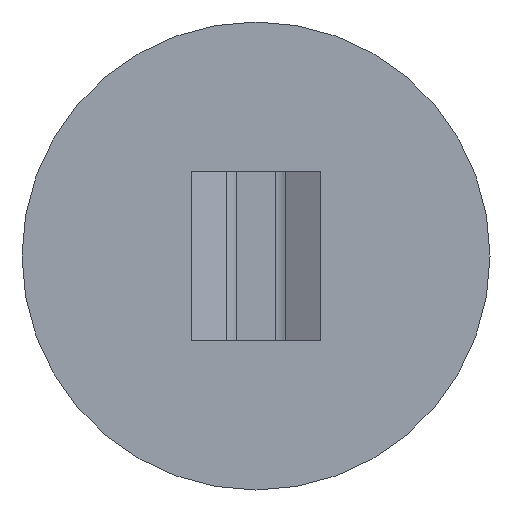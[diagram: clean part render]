
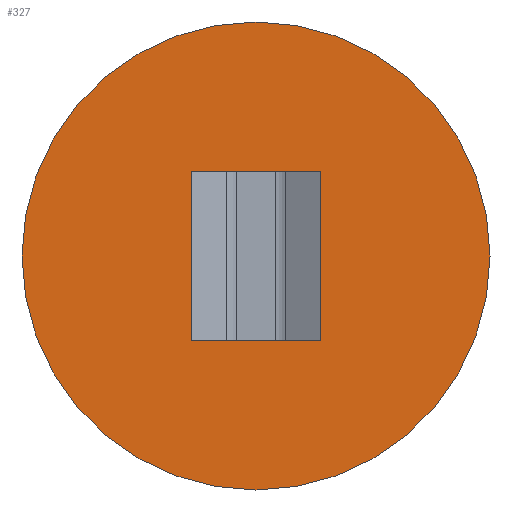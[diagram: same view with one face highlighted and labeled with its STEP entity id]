
A CAD part, front view. The second image highlights one B-rep face of the part: STEP entity #327.
In plain terms, the highlighted planar face has unit normal (0, -1, 0).
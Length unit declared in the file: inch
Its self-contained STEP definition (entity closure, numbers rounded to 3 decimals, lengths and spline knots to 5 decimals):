
#21 = ORIENTED_EDGE ( 'NONE', *, *, #678, .T. ) ;
#23 = VERTEX_POINT ( 'NONE', #656 ) ;
#28 = FACE_BOUND ( 'NONE', #105, .T. ) ;
#55 = CARTESIAN_POINT ( 'NONE',  ( 0.17328, -0.03, 0. ) ) ;
#61 = CARTESIAN_POINT ( 'NONE',  ( -0.17328, -0.03, 0. ) ) ;
#86 = DIRECTION ( 'NONE',  ( 1., 0., 0. ) ) ;
#95 = EDGE_CURVE ( 'NONE', #163, #555, #108, .T. ) ;
#105 = EDGE_LOOP ( 'NONE', ( #258, #493, #324, #719 ) ) ;
#108 = CIRCLE ( 'NONE', #189, 0.625 ) ;
#136 = CARTESIAN_POINT ( 'NONE',  ( -0.17328, -0.03, 0.454 ) ) ;
#163 = VERTEX_POINT ( 'NONE', #542 ) ;
#189 = AXIS2_PLACEMENT_3D ( 'NONE', #334, #572, #210 ) ;
#194 = CARTESIAN_POINT ( 'NONE',  ( 0., -0.03, 0.227 ) ) ;
#195 = EDGE_CURVE ( 'NONE', #348, #662, #632, .T. ) ;
#201 = DIRECTION ( 'NONE',  ( 0., -1., 0. ) ) ;
#203 = DIRECTION ( 'NONE',  ( 0., 1., 0. ) ) ;
#210 = DIRECTION ( 'NONE',  ( 1., 0., 0. ) ) ;
#251 = AXIS2_PLACEMENT_3D ( 'NONE', #487, #203, #302 ) ;
#258 = ORIENTED_EDGE ( 'NONE', *, *, #356, .F. ) ;
#262 = PLANE ( 'NONE',  #251 ) ;
#271 = CARTESIAN_POINT ( 'NONE',  ( 0.17328, -0.03, 0. ) ) ;
#285 = CARTESIAN_POINT ( 'NONE',  ( 0.625, -0.03, 0.227 ) ) ;
#294 = LINE ( 'NONE', #61, #668 ) ;
#302 = DIRECTION ( 'NONE',  ( -1., 0., 0. ) ) ;
#319 = VERTEX_POINT ( 'NONE', #471 ) ;
#324 = ORIENTED_EDGE ( 'NONE', *, *, #659, .T. ) ;
#327 = ADVANCED_FACE ( 'NONE', ( #590, #28 ), #262, .F. ) ;
#334 = CARTESIAN_POINT ( 'NONE',  ( 0., -0.03, 0.227 ) ) ;
#336 = DIRECTION ( 'NONE',  ( 1., 0., 0. ) ) ;
#348 = VERTEX_POINT ( 'NONE', #55 ) ;
#356 = EDGE_CURVE ( 'NONE', #319, #348, #387, .T. ) ;
#384 = DIRECTION ( 'NONE',  ( 0., 0., 1. ) ) ;
#387 = LINE ( 'NONE', #492, #412 ) ;
#412 = VECTOR ( 'NONE', #336, 39.37008 ) ;
#471 = CARTESIAN_POINT ( 'NONE',  ( -0.17328, -0.03, 0. ) ) ;
#485 = DIRECTION ( 'NONE',  ( 1., 0., 0. ) ) ;
#487 = CARTESIAN_POINT ( 'NONE',  ( 0.48198, -0.03, 0.454 ) ) ;
#492 = CARTESIAN_POINT ( 'NONE',  ( -0.17328, -0.03, 0. ) ) ;
#493 = ORIENTED_EDGE ( 'NONE', *, *, #622, .T. ) ;
#507 = AXIS2_PLACEMENT_3D ( 'NONE', #194, #201, #485 ) ;
#523 = VECTOR ( 'NONE', #86, 39.37008 ) ;
#526 = EDGE_LOOP ( 'NONE', ( #21, #654 ) ) ;
#535 = VECTOR ( 'NONE', #384, 39.37008 ) ;
#542 = CARTESIAN_POINT ( 'NONE',  ( -0.625, -0.03, 0.227 ) ) ;
#555 = VERTEX_POINT ( 'NONE', #285 ) ;
#572 = DIRECTION ( 'NONE',  ( 0., -1., 0. ) ) ;
#590 = FACE_OUTER_BOUND ( 'NONE', #526, .T. ) ;
#622 = EDGE_CURVE ( 'NONE', #319, #23, #294, .T. ) ;
#632 = LINE ( 'NONE', #271, #535 ) ;
#633 = DIRECTION ( 'NONE',  ( 0., 0., 1. ) ) ;
#636 = CIRCLE ( 'NONE', #507, 0.625 ) ;
#637 = LINE ( 'NONE', #136, #523 ) ;
#654 = ORIENTED_EDGE ( 'NONE', *, *, #95, .T. ) ;
#656 = CARTESIAN_POINT ( 'NONE',  ( -0.17328, -0.03, 0.454 ) ) ;
#659 = EDGE_CURVE ( 'NONE', #23, #662, #637, .T. ) ;
#662 = VERTEX_POINT ( 'NONE', #702 ) ;
#668 = VECTOR ( 'NONE', #633, 39.37008 ) ;
#678 = EDGE_CURVE ( 'NONE', #555, #163, #636, .T. ) ;
#702 = CARTESIAN_POINT ( 'NONE',  ( 0.17328, -0.03, 0.454 ) ) ;
#719 = ORIENTED_EDGE ( 'NONE', *, *, #195, .F. ) ;
